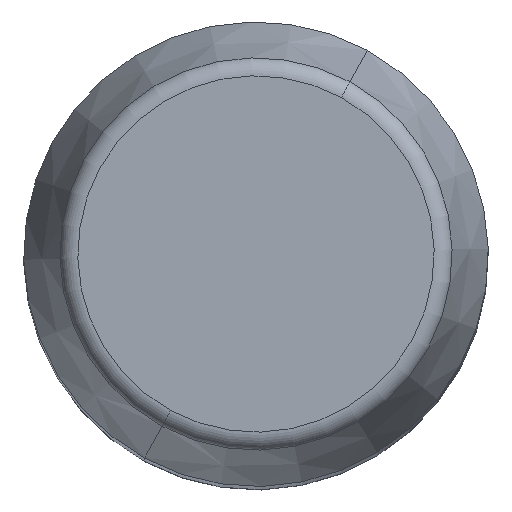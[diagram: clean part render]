
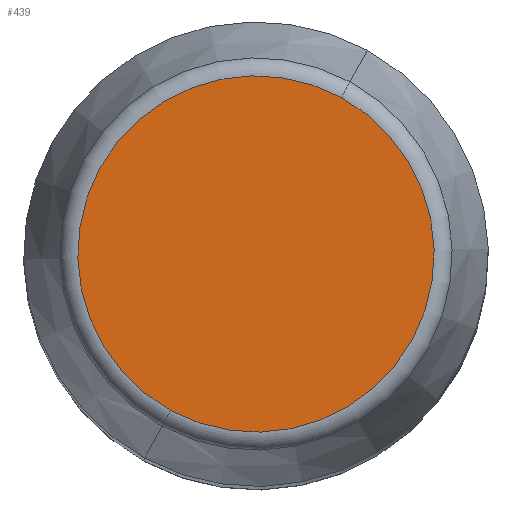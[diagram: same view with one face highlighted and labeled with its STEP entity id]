
A CAD part, top view. The second image highlights one B-rep face of the part: STEP entity #439.
In plain terms, the highlighted planar face has unit normal (0, 0, 1).
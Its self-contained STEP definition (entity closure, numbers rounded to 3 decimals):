
#391=CARTESIAN_POINT('Vertex',(-4.597,-8.415,125.)) ;
#394=CARTESIAN_POINT('Axis2P3D Location',(0.,0.,125.)) ;
#398=CARTESIAN_POINT('Vertex',(4.597,8.415,125.)) ;
#418=CARTESIAN_POINT('Axis2P3D Location',(0.,0.,125.)) ;
#430=CARTESIAN_POINT('Axis2P3D Location',(0.,9.589,125.)) ;
#395=DIRECTION('Axis2P3D Direction',(0.,0.,-1.)) ;
#419=DIRECTION('Axis2P3D Direction',(0.,0.,-1.)) ;
#431=DIRECTION('Axis2P3D Direction',(0.,0.,-1.)) ;
#432=DIRECTION('Axis2P3D XDirection',(1.,0.,0.)) ;
#396=AXIS2_PLACEMENT_3D('Circle Axis2P3D',#394,#395,$) ;
#420=AXIS2_PLACEMENT_3D('Circle Axis2P3D',#418,#419,$) ;
#433=AXIS2_PLACEMENT_3D('Plane Axis2P3D',#430,#431,#432) ;
#436=ORIENTED_EDGE('',*,*,#422,.F.) ;
#437=ORIENTED_EDGE('',*,*,#400,.F.) ;
#439=ADVANCED_FACE('PartBody',(#438),#434,.F.) ;
#397=CIRCLE('generated circle',#396,9.589) ;
#421=CIRCLE('generated circle',#420,9.589) ;
#400=EDGE_CURVE('',#392,#399,#397,.T.) ;
#422=EDGE_CURVE('',#399,#392,#421,.T.) ;
#435=EDGE_LOOP('',(#436,#437)) ;
#438=FACE_OUTER_BOUND('',#435,.T.) ;
#434=PLANE('Plane',#433) ;
#392=VERTEX_POINT('',#391) ;
#399=VERTEX_POINT('',#398) ;
